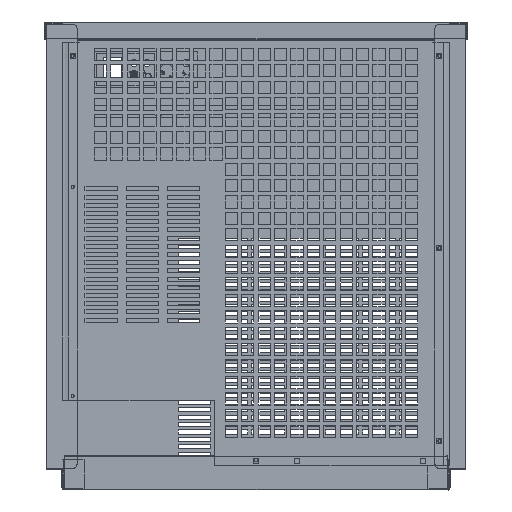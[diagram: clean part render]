
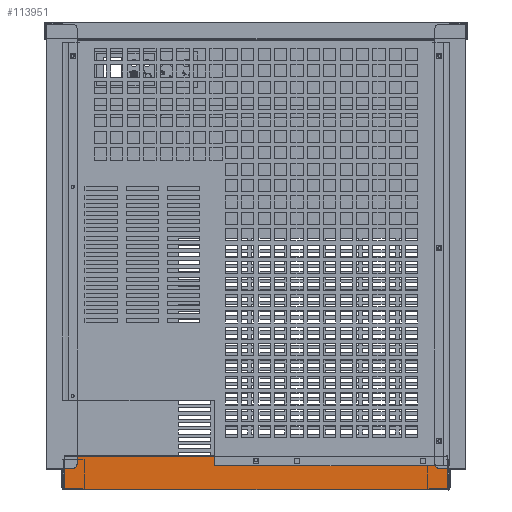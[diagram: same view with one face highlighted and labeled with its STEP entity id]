
A CAD part, left-side view. The second image highlights one B-rep face of the part: STEP entity #113951.
In plain terms, the highlighted planar face has unit normal (-1, 0, 0) as drawn and (0, 0, 1) by its records, which use the part's own axes.
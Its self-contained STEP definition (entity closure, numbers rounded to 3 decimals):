
#636=LINE('',#156083,#16347);
#651=LINE('',#156135,#16362);
#811=LINE('',#156562,#16522);
#826=LINE('',#156601,#16537);
#832=LINE('',#156614,#16543);
#835=LINE('',#156620,#16546);
#837=LINE('',#156623,#16548);
#838=LINE('',#156625,#16549);
#844=LINE('',#156638,#16555);
#847=LINE('',#156644,#16558);
#849=LINE('',#156647,#16560);
#850=LINE('',#156649,#16561);
#856=LINE('',#156662,#16567);
#859=LINE('',#156668,#16570);
#861=LINE('',#156671,#16572);
#862=LINE('',#156673,#16573);
#867=LINE('',#156683,#16578);
#868=LINE('',#156685,#16579);
#869=LINE('',#156687,#16580);
#872=LINE('',#156693,#16583);
#876=LINE('',#156700,#16587);
#878=LINE('',#156703,#16589);
#16347=VECTOR('',#128058,1000.);
#16362=VECTOR('',#128111,1000.);
#16522=VECTOR('',#128643,1000.);
#16537=VECTOR('',#128682,1000.);
#16543=VECTOR('',#128690,1000.);
#16546=VECTOR('',#128695,1000.);
#16548=VECTOR('',#128699,1000.);
#16549=VECTOR('',#128702,1000.);
#16555=VECTOR('',#128710,1000.);
#16558=VECTOR('',#128715,1000.);
#16560=VECTOR('',#128719,1000.);
#16561=VECTOR('',#128722,1000.);
#16567=VECTOR('',#128730,1000.);
#16570=VECTOR('',#128735,1000.);
#16572=VECTOR('',#128739,1000.);
#16573=VECTOR('',#128742,1000.);
#16578=VECTOR('',#128749,1000.);
#16579=VECTOR('',#128752,1000.);
#16580=VECTOR('',#128755,1000.);
#16583=VECTOR('',#128760,1000.);
#16587=VECTOR('',#128766,1000.);
#16589=VECTOR('',#128770,1000.);
#32992=ORIENTED_EDGE('',*,*,#64904,.F.);
#32993=ORIENTED_EDGE('',*,*,#64693,.T.);
#32994=ORIENTED_EDGE('',*,*,#64973,.T.);
#32995=ORIENTED_EDGE('',*,*,#64969,.F.);
#32996=ORIENTED_EDGE('',*,*,#64966,.F.);
#32997=ORIENTED_EDGE('',*,*,#64965,.F.);
#32998=ORIENTED_EDGE('',*,*,#64964,.F.);
#32999=ORIENTED_EDGE('',*,*,#64959,.T.);
#33000=ORIENTED_EDGE('',*,*,#64975,.T.);
#33001=ORIENTED_EDGE('',*,*,#64722,.T.);
#33002=ORIENTED_EDGE('',*,*,#64958,.F.);
#33003=ORIENTED_EDGE('',*,*,#64956,.F.);
#33004=ORIENTED_EDGE('',*,*,#64953,.F.);
#33005=ORIENTED_EDGE('',*,*,#64947,.F.);
#33006=ORIENTED_EDGE('',*,*,#64946,.T.);
#33007=ORIENTED_EDGE('',*,*,#64944,.T.);
#33008=ORIENTED_EDGE('',*,*,#64941,.T.);
#33009=ORIENTED_EDGE('',*,*,#64935,.T.);
#33010=ORIENTED_EDGE('',*,*,#64934,.F.);
#33011=ORIENTED_EDGE('',*,*,#64932,.F.);
#33012=ORIENTED_EDGE('',*,*,#64929,.F.);
#33013=ORIENTED_EDGE('',*,*,#64923,.F.);
#64693=EDGE_CURVE('',#80929,#80928,#636,.T.);
#64722=EDGE_CURVE('',#80947,#80946,#651,.T.);
#64904=EDGE_CURVE('',#80929,#80946,#811,.T.);
#64923=EDGE_CURVE('',#81028,#81029,#826,.T.);
#64929=EDGE_CURVE('',#81029,#81032,#832,.T.);
#64932=EDGE_CURVE('',#81032,#81034,#835,.F.);
#64934=EDGE_CURVE('',#81034,#81028,#837,.F.);
#64935=EDGE_CURVE('',#81036,#81037,#838,.F.);
#64941=EDGE_CURVE('',#81040,#81036,#844,.T.);
#64944=EDGE_CURVE('',#81042,#81040,#847,.T.);
#64946=EDGE_CURVE('',#81037,#81042,#849,.F.);
#64947=EDGE_CURVE('',#81044,#81045,#850,.F.);
#64953=EDGE_CURVE('',#81045,#81048,#856,.T.);
#64956=EDGE_CURVE('',#81048,#81050,#859,.T.);
#64958=EDGE_CURVE('',#81050,#81044,#861,.F.);
#64959=EDGE_CURVE('',#81052,#81053,#862,.T.);
#64964=EDGE_CURVE('',#81052,#81023,#867,.T.);
#64965=EDGE_CURVE('',#81023,#81026,#868,.T.);
#64966=EDGE_CURVE('',#81026,#81056,#869,.T.);
#64969=EDGE_CURVE('',#81056,#81058,#872,.T.);
#64973=EDGE_CURVE('',#80928,#81058,#876,.T.);
#64975=EDGE_CURVE('',#81053,#80947,#878,.T.);
#80928=VERTEX_POINT('',#156082);
#80929=VERTEX_POINT('',#156084);
#80946=VERTEX_POINT('',#156134);
#80947=VERTEX_POINT('',#156136);
#81023=VERTEX_POINT('',#156584);
#81026=VERTEX_POINT('',#156594);
#81028=VERTEX_POINT('',#156602);
#81029=VERTEX_POINT('',#156603);
#81032=VERTEX_POINT('',#156611);
#81034=VERTEX_POINT('',#156617);
#81036=VERTEX_POINT('',#156626);
#81037=VERTEX_POINT('',#156627);
#81040=VERTEX_POINT('',#156635);
#81042=VERTEX_POINT('',#156641);
#81044=VERTEX_POINT('',#156650);
#81045=VERTEX_POINT('',#156651);
#81048=VERTEX_POINT('',#156659);
#81050=VERTEX_POINT('',#156665);
#81052=VERTEX_POINT('',#156674);
#81053=VERTEX_POINT('',#156675);
#81056=VERTEX_POINT('',#156688);
#81058=VERTEX_POINT('',#156694);
#92354=EDGE_LOOP('',(#32992,#32993,#32994,#32995,#32996,#32997,#32998,#32999,
#33000,#33001));
#92355=EDGE_LOOP('',(#33002,#33003,#33004,#33005));
#92356=EDGE_LOOP('',(#33006,#33007,#33008,#33009));
#92357=EDGE_LOOP('',(#33010,#33011,#33012,#33013));
#100582=FACE_BOUND('',#92354,.T.);
#100583=FACE_BOUND('',#92355,.T.);
#100584=FACE_BOUND('',#92356,.T.);
#100585=FACE_BOUND('',#92357,.T.);
#108601=PLANE('',#121871);
#113951=ADVANCED_FACE('',(#100582,#100583,#100584,#100585),#108601,.T.);
#121871=AXIS2_PLACEMENT_3D('',#156704,#128771,#128772);
#128058=DIRECTION('',(0.,1.,0.));
#128111=DIRECTION('',(0.,-1.,0.));
#128643=DIRECTION('',(-1.,0.,0.));
#128682=DIRECTION('',(0.,-1.,0.));
#128690=DIRECTION('',(1.,0.,0.));
#128695=DIRECTION('',(0.,-1.,0.));
#128699=DIRECTION('',(1.,0.,0.));
#128702=DIRECTION('',(1.,0.,0.));
#128710=DIRECTION('',(0.,-1.,0.));
#128715=DIRECTION('',(1.,0.,0.));
#128719=DIRECTION('',(0.,-1.,0.));
#128722=DIRECTION('',(1.,0.,0.));
#128730=DIRECTION('',(0.,-1.,0.));
#128735=DIRECTION('',(1.,0.,0.));
#128739=DIRECTION('',(0.,-1.,0.));
#128742=DIRECTION('',(0.,1.,0.));
#128749=DIRECTION('',(1.,0.,0.));
#128752=DIRECTION('',(1.,0.,0.));
#128755=DIRECTION('',(1.,0.,0.));
#128760=DIRECTION('',(0.,1.,0.));
#128766=DIRECTION('',(-1.,0.,0.));
#128770=DIRECTION('',(-1.,0.,0.));
#128771=DIRECTION('',(0.,0.,1.));
#128772=DIRECTION('',(0.,-1.,0.));
#156082=CARTESIAN_POINT('',(233.9,40.001,264.9));
#156083=CARTESIAN_POINT('',(233.9,40.001,264.9));
#156084=CARTESIAN_POINT('',(233.9,0.002,264.9));
#156134=CARTESIAN_POINT('',(-233.9,0.002,264.9));
#156135=CARTESIAN_POINT('',(-233.9,40.001,264.9));
#156136=CARTESIAN_POINT('',(-233.9,40.001,264.9));
#156562=CARTESIAN_POINT('',(233.9,0.002,264.9));
#156584=CARTESIAN_POINT('',(-202.9,39.999,264.9));
#156594=CARTESIAN_POINT('',(202.9,39.999,264.9));
#156601=CARTESIAN_POINT('',(-207.1,-1.199,264.9));
#156602=CARTESIAN_POINT('',(-207.1,8.701,264.9));
#156603=CARTESIAN_POINT('',(-207.1,2.501,264.9));
#156611=CARTESIAN_POINT('',(-200.9,2.501,264.9));
#156614=CARTESIAN_POINT('',(-273.9,2.501,264.9));
#156617=CARTESIAN_POINT('',(-200.9,8.701,264.9));
#156620=CARTESIAN_POINT('',(-200.9,-1.199,264.9));
#156623=CARTESIAN_POINT('',(-273.9,8.701,264.9));
#156625=CARTESIAN_POINT('',(-273.9,2.501,264.9));
#156626=CARTESIAN_POINT('',(-46.9,2.501,264.9));
#156627=CARTESIAN_POINT('',(-53.1,2.501,264.9));
#156635=CARTESIAN_POINT('',(-46.9,8.701,264.9));
#156638=CARTESIAN_POINT('',(-46.9,-1.199,264.9));
#156641=CARTESIAN_POINT('',(-53.1,8.701,264.9));
#156644=CARTESIAN_POINT('',(-273.9,8.701,264.9));
#156647=CARTESIAN_POINT('',(-53.1,-1.199,264.9));
#156649=CARTESIAN_POINT('',(-273.9,8.701,264.9));
#156650=CARTESIAN_POINT('',(3.1,8.701,264.9));
#156651=CARTESIAN_POINT('',(-3.1,8.701,264.9));
#156659=CARTESIAN_POINT('',(-3.1,2.501,264.9));
#156662=CARTESIAN_POINT('',(-3.1,-1.199,264.9));
#156665=CARTESIAN_POINT('',(3.1,2.501,264.9));
#156668=CARTESIAN_POINT('',(-273.9,2.501,264.9));
#156671=CARTESIAN_POINT('',(3.1,-1.199,264.9));
#156673=CARTESIAN_POINT('',(-204.1,39.999,264.9));
#156674=CARTESIAN_POINT('',(-204.1,39.999,264.9));
#156675=CARTESIAN_POINT('',(-204.1,40.001,264.9));
#156683=CARTESIAN_POINT('',(202.9,39.999,264.9));
#156685=CARTESIAN_POINT('',(-202.9,39.999,264.9));
#156687=CARTESIAN_POINT('',(202.9,39.999,264.9));
#156688=CARTESIAN_POINT('',(204.1,39.999,264.9));
#156693=CARTESIAN_POINT('',(204.1,39.999,264.9));
#156694=CARTESIAN_POINT('',(204.1,40.001,264.9));
#156700=CARTESIAN_POINT('',(202.9,40.001,264.9));
#156703=CARTESIAN_POINT('',(-202.9,40.001,264.9));
#156704=CARTESIAN_POINT('',(-273.9,-1.199,264.9));
